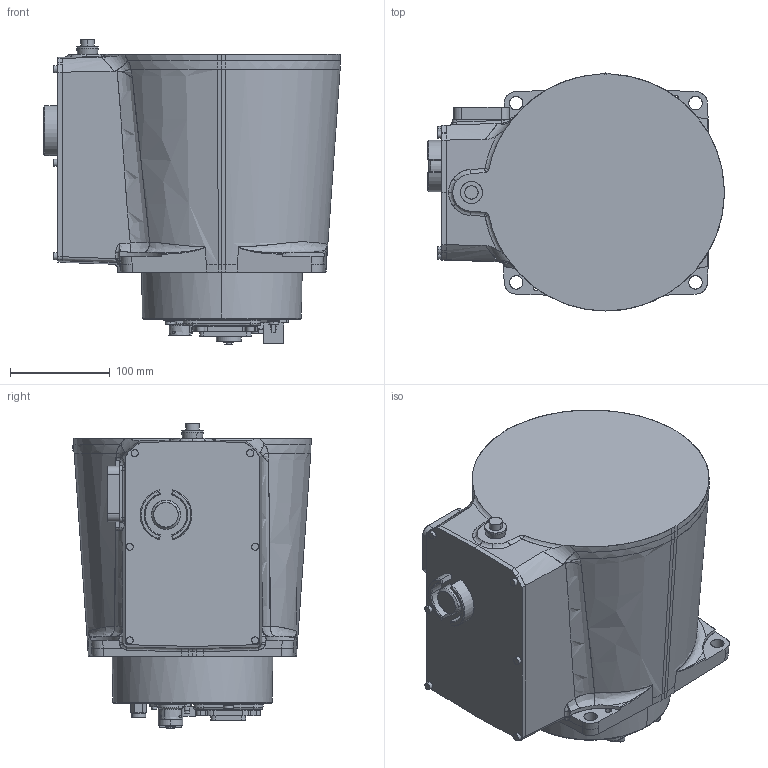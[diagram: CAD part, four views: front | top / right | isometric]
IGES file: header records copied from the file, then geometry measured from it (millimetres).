
Start section: SolidWorks IGES file using analytic representation for surfaces
Global section: file name: C:\Users\CNSHAN\Desktop\IRB1200H Light Weight Model\IRB1200H_7-70_IRC5_rev0_joints\IRB1200H_7-705-90_IRC5_Base_Bottom_rev0.igs; native system: SolidWorks 2020; preprocessor: SolidWorks 2020; author: CNSHAN; date: 220117.163507; units: millimetre
Bounding box: 298.07 x 239.07 x 306.75 mm (x, y, z)
Surface area: 337765 mm2 (no closed solid volume)
Topology: 0 solids, 0 shells, 670 faces, 7501 edges, 7491 vertices
Faces by surface type: bspline 366, revolution 304
